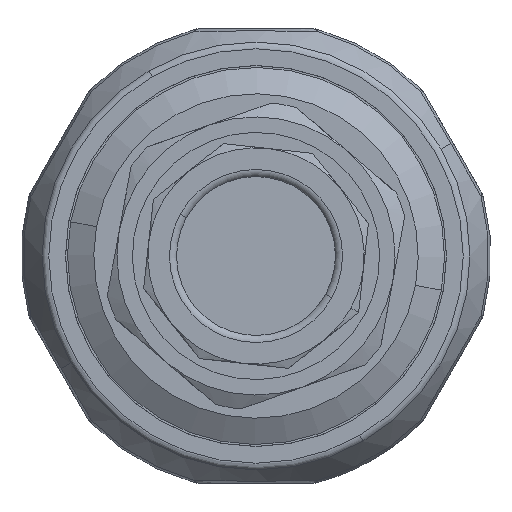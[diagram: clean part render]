
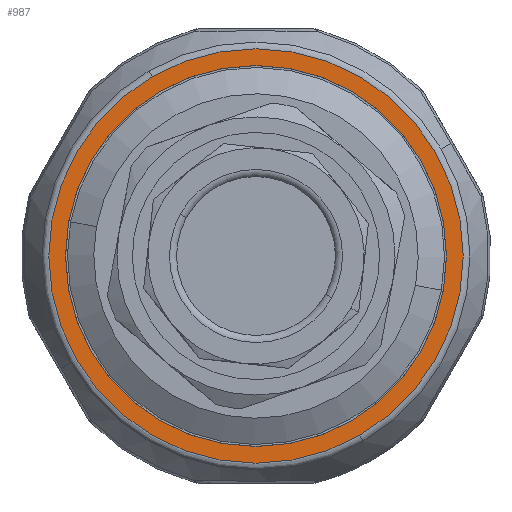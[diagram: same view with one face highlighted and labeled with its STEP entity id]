
A CAD part, front view. The second image highlights one B-rep face of the part: STEP entity #987.
In plain terms, the highlighted planar face has unit normal (0, -1, 0).
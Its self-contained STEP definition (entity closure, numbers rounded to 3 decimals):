
#56 = AXIS2_PLACEMENT_3D ( 'NONE', #4488, #4489, #4490 ) ;
#679 = PLANE ( 'NONE',  #3779 ) ;
#686 = CARTESIAN_POINT ( 'NONE',  ( -13.164, -1.55, -7.6 ) ) ;
#687 = DIRECTION ( 'NONE',  ( 0., -1., 0. ) ) ;
#688 = DIRECTION ( 'NONE',  ( -0.5, 0., 0.866 ) ) ;
#913 = VERTEX_POINT ( 'NONE', #2284 ) ;
#914 = VERTEX_POINT ( 'NONE', #2285 ) ;
#951 = FACE_OUTER_BOUND ( 'NONE', #3376, .T. ) ;
#955 = FACE_BOUND ( 'NONE', #3366, .T. ) ;
#987 = ADVANCED_FACE ( 'NONE', ( #951, #955 ), #679, .T. ) ;
#1749 = EDGE_CURVE ( 'NONE', #7302, #7303, #8115, .T. ) ;
#2284 = CARTESIAN_POINT ( 'NONE',  ( -6.706, -1.55, 11.615 ) ) ;
#2285 = CARTESIAN_POINT ( 'NONE',  ( 6.706, -1.55, -11.615 ) ) ;
#2759 = AXIS2_PLACEMENT_3D ( 'NONE', #7764, #7765, #7766 ) ;
#2826 = AXIS2_PLACEMENT_3D ( 'NONE', #6327, #6328, #6329 ) ;
#2827 = AXIS2_PLACEMENT_3D ( 'NONE', #6332, #6333, #6334 ) ;
#3366 = EDGE_LOOP ( 'NONE', ( #3521, #3522 ) ) ;
#3376 = EDGE_LOOP ( 'NONE', ( #3519, #3520 ) ) ;
#3519 = ORIENTED_EDGE ( 'NONE', *, *, #4982, .T. ) ;
#3520 = ORIENTED_EDGE ( 'NONE', *, *, #5662, .T. ) ;
#3521 = ORIENTED_EDGE ( 'NONE', *, *, #1749, .T. ) ;
#3522 = ORIENTED_EDGE ( 'NONE', *, *, #5663, .T. ) ;
#3779 = AXIS2_PLACEMENT_3D ( 'NONE', #686, #687, #688 ) ;
#4488 = CARTESIAN_POINT ( 'NONE',  ( 0., -1.55, 0. ) ) ;
#4489 = DIRECTION ( 'NONE',  ( 0., 1., 0. ) ) ;
#4490 = DIRECTION ( 'NONE',  ( -0.866, 0., -0.5 ) ) ;
#4982 = EDGE_CURVE ( 'NONE', #913, #914, #6958, .T. ) ;
#5662 = EDGE_CURVE ( 'NONE', #914, #913, #7121, .T. ) ;
#5663 = EDGE_CURVE ( 'NONE', #7303, #7302, #7122, .T. ) ;
#6327 = CARTESIAN_POINT ( 'NONE',  ( 0., -1.55, 0. ) ) ;
#6328 = DIRECTION ( 'NONE',  ( 0., -1., 0. ) ) ;
#6329 = DIRECTION ( 'NONE',  ( -0.5, 0., 0.866 ) ) ;
#6332 = CARTESIAN_POINT ( 'NONE',  ( 0., -1.55, 0. ) ) ;
#6333 = DIRECTION ( 'NONE',  ( 0., 1., 0. ) ) ;
#6334 = DIRECTION ( 'NONE',  ( -0.866, 0., -0.5 ) ) ;
#6584 = CARTESIAN_POINT ( 'NONE',  ( 10.674, -1.55, 6.163 ) ) ;
#6604 = CARTESIAN_POINT ( 'NONE',  ( -10.674, -1.55, -6.163 ) ) ;
#6958 = CIRCLE ( 'NONE', #2759, 13.411 ) ;
#7121 = CIRCLE ( 'NONE', #2826, 13.411 ) ;
#7122 = CIRCLE ( 'NONE', #2827, 12.325 ) ;
#7302 = VERTEX_POINT ( 'NONE', #6584 ) ;
#7303 = VERTEX_POINT ( 'NONE', #6604 ) ;
#7764 = CARTESIAN_POINT ( 'NONE',  ( 0., -1.55, 0. ) ) ;
#7765 = DIRECTION ( 'NONE',  ( 0., -1., 0. ) ) ;
#7766 = DIRECTION ( 'NONE',  ( -0.5, 0., 0.866 ) ) ;
#8115 = CIRCLE ( 'NONE', #56, 12.325 ) ;
